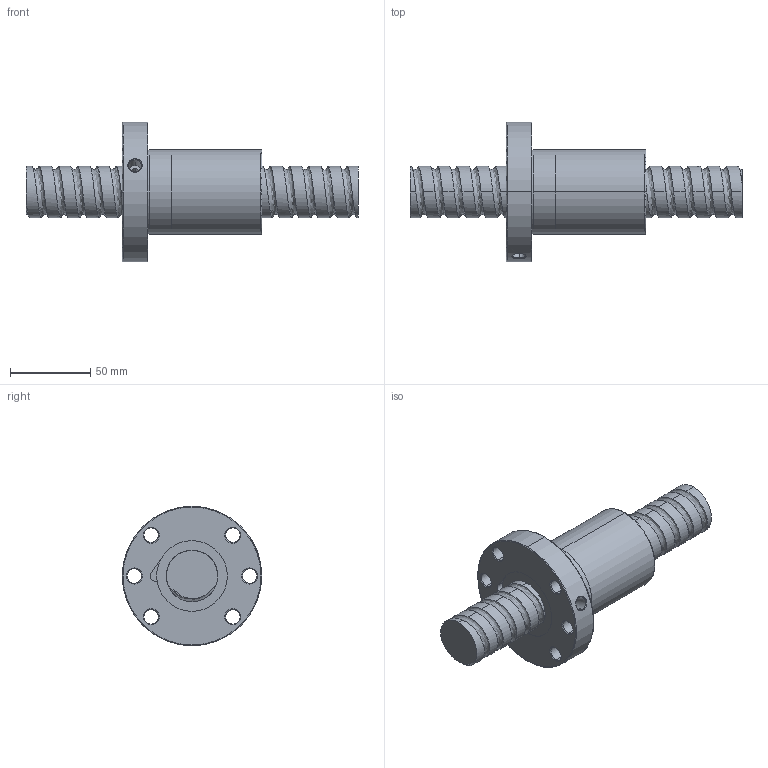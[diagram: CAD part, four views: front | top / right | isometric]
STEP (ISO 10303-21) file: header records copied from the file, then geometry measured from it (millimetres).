
FILE_DESCRIPTION (( 'STEP AP214' ), '1' );
FILE_NAME ('FSDC03212T5-D-A.STEP', '2010-06-25T11:42:00', ( 'XPAUTO' ), ( 'XPAUTO' ), 'SwSTEP 2.0', 'SolidWorks 2007', '' );
FILE_SCHEMA (( 'AUTOMOTIVE_DESIGN' ));
Length unit declared in the file: millimetre
Products named in the file (3): FSDC03212T5-D-A.sldasm-Part-2_預設; FSDC03212T5-D-A.sldasm-Part-1_預設; FSDC03212T5-D-A
Assembly tree (2 placements, depth 2):
  FSDC03212T5-D-A
    FSDC03212T5-D-A.sldasm-Part-2_預設
    FSDC03212T5-D-A.sldasm-Part-1_預設
Bounding box: 207 x 87 x 87 mm (x, y, z)
Volume: 328381.6 mm3; surface area: 62710 mm2
Topology: 2 solids, 2 shells, 125 faces, 313 edges, 197 vertices
Faces by surface type: cylinder 74, cone 24, plane 16, torus 6, bspline 5
Entity records: 25721 total; most frequent: CARTESIAN_POINT 22723, ORIENTED_EDGE 626, DIRECTION 585, EDGE_CURVE 313, AXIS2_PLACEMENT_3D 240, VERTEX_POINT 197, EDGE_LOOP 146, FACE_OUTER_BOUND 125
